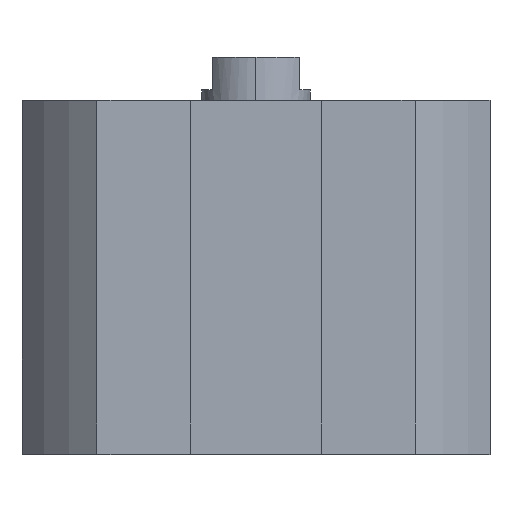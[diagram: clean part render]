
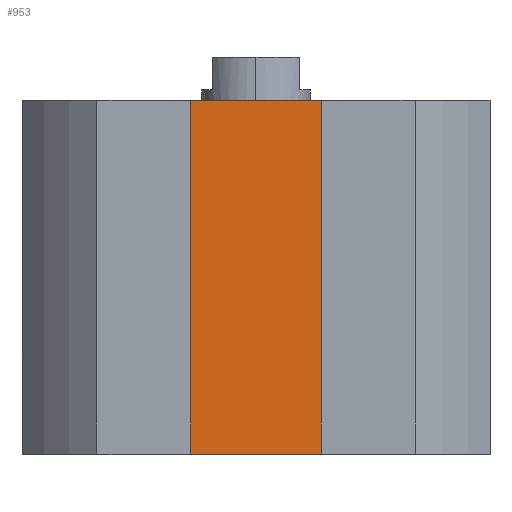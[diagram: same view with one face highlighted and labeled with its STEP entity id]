
A CAD part, top view. The second image highlights one B-rep face of the part: STEP entity #953.
In plain terms, the highlighted planar face has unit normal (0, 0, 1).
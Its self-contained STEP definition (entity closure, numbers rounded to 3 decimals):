
#4 = DIRECTION ( 'NONE',  ( 1., 0., 0. ) ) ;
#17 = CARTESIAN_POINT ( 'NONE',  ( 0., 0., 14. ) ) ;
#155 = CARTESIAN_POINT ( 'NONE',  ( 0., -32.5, 14. ) ) ;
#209 = DIRECTION ( 'NONE',  ( 0., 1., 0. ) ) ;
#373 = VERTEX_POINT ( 'NONE', #2575 ) ;
#439 = CARTESIAN_POINT ( 'NONE',  ( 0., -32.5, 14. ) ) ;
#568 = LINE ( 'NONE', #1263, #2765 ) ;
#663 = CARTESIAN_POINT ( 'NONE',  ( -7.7, 0., 14. ) ) ;
#670 = VERTEX_POINT ( 'NONE', #1623 ) ;
#686 = DIRECTION ( 'NONE',  ( 1., 0., 0. ) ) ;
#802 = CARTESIAN_POINT ( 'NONE',  ( -7.7, -32.5, 14. ) ) ;
#847 = ORIENTED_EDGE ( 'NONE', *, *, #1565, .F. ) ;
#953 = ADVANCED_FACE ( 'NONE', ( #1561 ), #2001, .T. ) ;
#1194 = LINE ( 'NONE', #802, #2257 ) ;
#1263 = CARTESIAN_POINT ( 'NONE',  ( 7.7, -32.5, 14. ) ) ;
#1274 = LINE ( 'NONE', #17, #1786 ) ;
#1284 = EDGE_CURVE ( 'NONE', #1730, #2455, #1274, .T. ) ;
#1374 = AXIS2_PLACEMENT_3D ( 'NONE', #155, #2212, #686 ) ;
#1543 = DIRECTION ( 'NONE',  ( 1., 0., 0. ) ) ;
#1561 = FACE_OUTER_BOUND ( 'NONE', #2652, .T. ) ;
#1565 = EDGE_CURVE ( 'NONE', #373, #1730, #1194, .T. ) ;
#1623 = CARTESIAN_POINT ( 'NONE',  ( 7.7, -32.5, 14. ) ) ;
#1705 = VECTOR ( 'NONE', #4, 1000. ) ;
#1730 = VERTEX_POINT ( 'NONE', #663 ) ;
#1786 = VECTOR ( 'NONE', #1543, 1000. ) ;
#1810 = CARTESIAN_POINT ( 'NONE',  ( 7.7, 0., 14. ) ) ;
#1829 = EDGE_CURVE ( 'NONE', #373, #670, #2503, .T. ) ;
#1957 = ORIENTED_EDGE ( 'NONE', *, *, #2246, .T. ) ;
#2001 = PLANE ( 'NONE',  #1374 ) ;
#2212 = DIRECTION ( 'NONE',  ( 0., 0., 1. ) ) ;
#2246 = EDGE_CURVE ( 'NONE', #670, #2455, #568, .T. ) ;
#2257 = VECTOR ( 'NONE', #2802, 1000. ) ;
#2384 = ORIENTED_EDGE ( 'NONE', *, *, #1284, .F. ) ;
#2455 = VERTEX_POINT ( 'NONE', #1810 ) ;
#2503 = LINE ( 'NONE', #439, #1705 ) ;
#2575 = CARTESIAN_POINT ( 'NONE',  ( -7.7, -32.5, 14. ) ) ;
#2652 = EDGE_LOOP ( 'NONE', ( #2384, #847, #2842, #1957 ) ) ;
#2765 = VECTOR ( 'NONE', #209, 1000. ) ;
#2802 = DIRECTION ( 'NONE',  ( 0., 1., 0. ) ) ;
#2842 = ORIENTED_EDGE ( 'NONE', *, *, #1829, .T. ) ;
